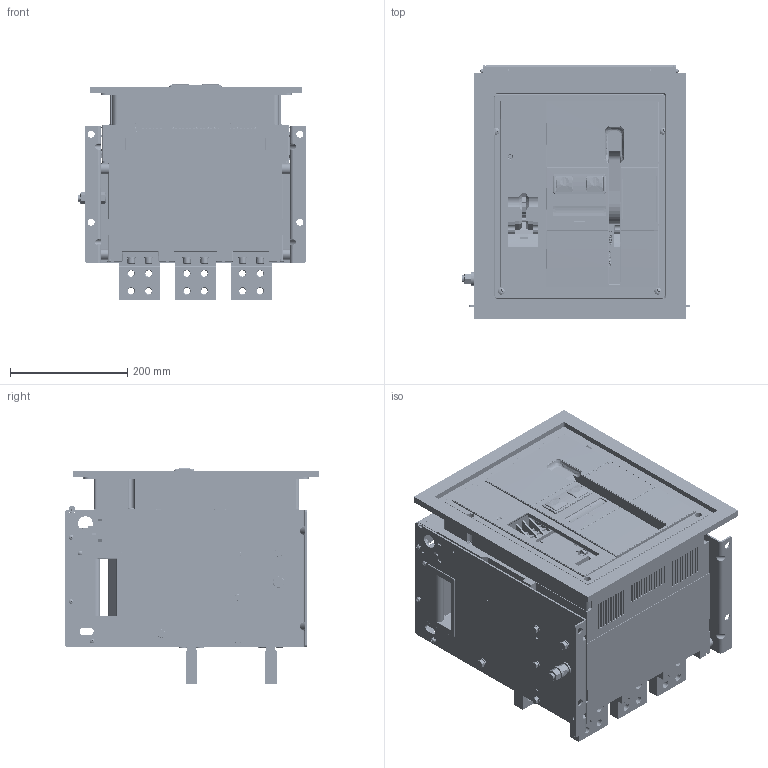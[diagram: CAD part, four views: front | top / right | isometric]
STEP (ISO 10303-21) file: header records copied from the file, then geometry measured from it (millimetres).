
FILE_DESCRIPTION (( 'STEP AP214' ), '1' );
FILE_NAME ('TEW5-2500 F 3P.STEP', '2026-04-03T12:58:08', ( '' ), ( '' ), 'SwSTEP 2.0', 'SolidWorks 2024', '' );
FILE_SCHEMA (( 'AUTOMOTIVE_DESIGN' ));
Length unit declared in the file: millimetre
Products named in the file (123): GB_T97_1_8.stp; GB_T956_1_6.stp; GB_T97_1_12.stp; GB_T818-M6X45.stp; 8TZD_282_1114.stp; 5TZD_206_1001_ASM.stp; 8TZD_941_1000.stp; 8TZD_941_1001.stp; GB_T5782-M6X16.stp; TeW5-2500-F; 5TZD_050_1032_ASM.stp; TeW5-2500-F.stp; GB_T9074_4-M6X55.stp; 5TZD_050_1014_ASM.stp; 5TZD_552_1184_ASM.stp; 8TZD_212_1012.stp; GB_T9074_4-M4X9.stp; 8TZD_947_1003.stp; 8TZD_282_1256_AF3.stp; 8TZD_300_1237.stp; 8TZD_270_1053.stp; 8TZD_050_1046.stp; 5TZD_558_1289.stp; GB_T5783-M12X40.stp; 8TZD_206_1017.stp; GB_T819_1-M6X16.stp; 8TZD_742_1597.stp; 8TZD_125_1003.stp; 8TZD_940_1005.stp; 5TZD_580_1022_ASM.stp; 5TZD_005_1018_ASM.stp; 8TZD_288_1416_AF12032.stp; 8TZD_206_1018.stp; 8TZD_206_1020.stp; 5TZD_141_1019_ASM.stp; 8TZD_064_1010.stp; GB_T93-6.stp; 8TZD_550_6014.stp; GB_T845-ST6_3X16-C.stp; 5TZD_315_1007_ASM.stp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
Assembly tree (494 placements, depth 5):
  TEW5-2500 F 3P
    TEW5-2500 F 3P.stp
      5TZD_024_1257_ASM.stp
        8TZD_024_6007.stp
        8TZD_947_1003.stp  x2
        8TZD_947_1002.stp  x7
      5TZD_580_1022_ASM.stp  x3
        5TZD_558_6002_ASM.stp
          8TZD_557_6002.stp
          8TZD_550_6014.stp
        8TZD_580_1090.stp
        8TZD_505_1168.stp
      5TZD_141_1019_ASM.stp  x3
        8TZD_141_1042.stp
        8TZD_206_1018.stp
      5TZD_141_1020_ASM.stp  x3
        8TZD_141_1043.stp
        8TZD_206_1018.stp
      5TZD_055_1033_ASM.stp
        8TZD_055_1011.stp
        8TZD_947_1004.stp  x6
        8TZD_947_1002.stp  x3
        8TZD_947_1003.stp  x6
      5TZD_552_1183_ASM.stp  x3
        5TZD_552_1184_ASM.stp
          8TZD_552_1059.stp
          8TZD_550_6013.stp
        8TZD_595_1055.stp
      5TZD_315_1007_ASM.stp
        5TZD_315_1763.stp
        GB_T809-M6X12-B.stp
      5TZD_206_1001_ASM.stp
        8TZD_206_1017.stp
        8TZD_933_1000.stp
        8TZD_206_1394.stp
      5TZD_000_1005_ASM.stp
        5TZD_005_1018_ASM.stp
          8TZD_005_1032.stp
          8TZD_315_1270.stp
        8TZD_253_1144.stp
        8TZD_253_1145.stp
        8TZD_231_1036.stp
        8TZD_282_1114.stp
      5TZD_050_1031_ASM.stp
        5TZD_050_1013_ASM.stp
          8TZD_050_1045.stp
          8TZD_156_1083_1.stp
          8TZD_156_1083_2.stp
          8TZD_156_1083_3.stp
          8TZD_125_1003.stp
          GB_T5783-M12X40.stp
          GB_T97_1_12.stp  x3
          GB_T93-12.stp
          GB_T6170-M12.stp  x2
          GB_T97_1_6.stp  x3
          GB_T93-6.stp  x3
          GB_T5782-M6X16.stp  x3
        8TZD_399_1002.stp
      5TZD_050_1032_ASM.stp
        5TZD_050_1014_ASM.stp
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Bounding box: 390 x 433.73 x 368.1 mm (x, y, z)
Volume: 8775682.9 mm3; surface area: 4809539.4 mm2
Topology: 409 solids, 783 shells, 27889 faces, 71370 edges, 45017 vertices
Faces by surface type: plane 15230, cylinder 8687, bspline 1580, cone 1261, torus 591, sphere 540
Entity records: 492355 total; most frequent: CARTESIAN_POINT 147744, ORIENTED_EDGE 71744, DIRECTION 68970, EDGE_CURVE 35990, LINE 24580, VECTOR 24580, VERTEX_POINT 23204, AXIS2_PLACEMENT_3D 22195
